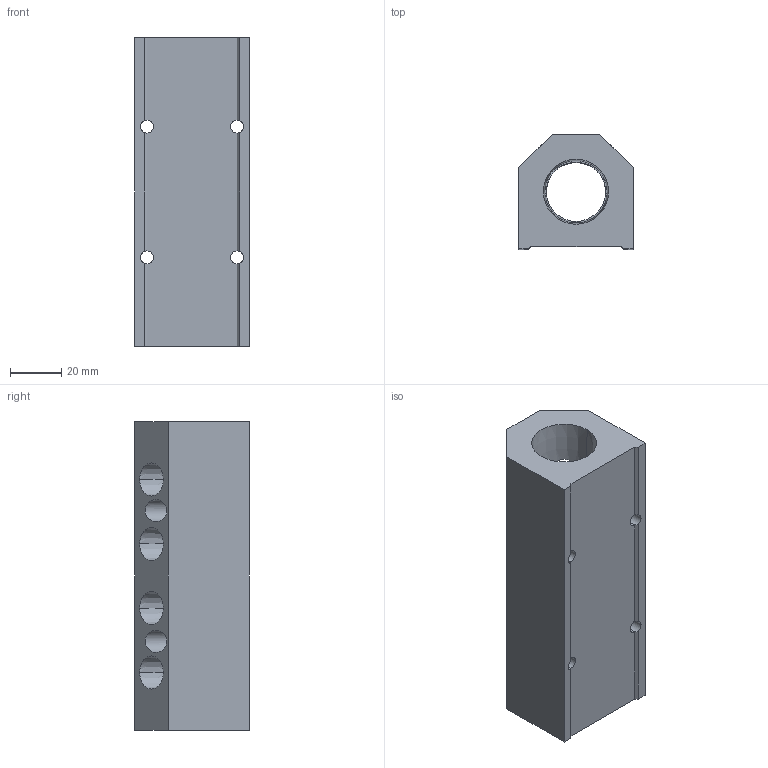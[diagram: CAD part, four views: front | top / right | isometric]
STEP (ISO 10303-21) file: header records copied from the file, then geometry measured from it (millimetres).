
FILE_DESCRIPTION (( 'STEP AP214' ), '1' );
FILE_NAME ('ALM4BD-N4N12-120B.step', '2022-02-06T14:10:28', ( '' ), ( '' ), 'SwSTEP 2.0', 'SolidWorks 2020', '' );
FILE_SCHEMA (( 'AUTOMOTIVE_DESIGN' ));
Length unit declared in the file: millimetre
Products named in the file (1): ALM4BD-N4N12-120B
Bounding box: 44.5 x 44.5 x 120 mm (x, y, z)
Volume: 146290.8 mm3; surface area: 34954.6 mm2
Topology: 1 solids, 1 shells, 324 faces, 866 edges, 572 vertices
Faces by surface type: plane 218, bspline 52, cone 28, cylinder 26
Entity records: 14480 total; most frequent: CARTESIAN_POINT 6507, ORIENTED_EDGE 1732, DIRECTION 1320, EDGE_CURVE 866, LINE 622, VECTOR 622, VERTEX_POINT 572, EDGE_LOOP 378
